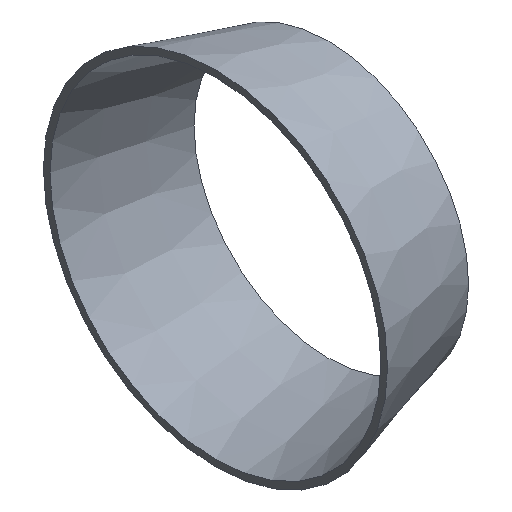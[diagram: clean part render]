
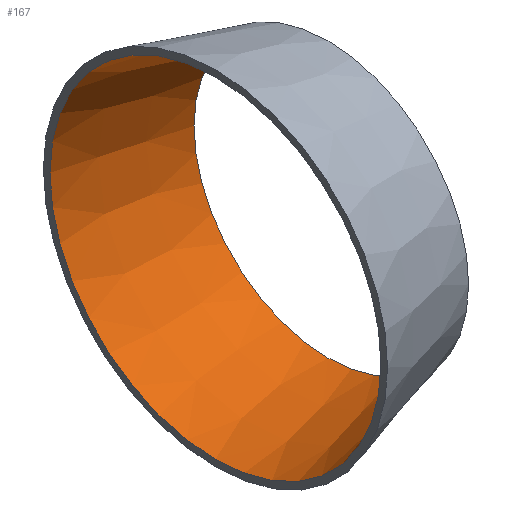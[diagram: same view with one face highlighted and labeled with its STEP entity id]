
A CAD part, isometric view. The second image highlights one B-rep face of the part: STEP entity #167.
In plain terms, the highlighted conical face has half-angle 15.611 degrees and reference radius 50 mm.
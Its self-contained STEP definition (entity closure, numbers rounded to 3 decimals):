
#43 = PLANE('',#44);
#44 = AXIS2_PLACEMENT_3D('',#45,#46,#47);
#45 = CARTESIAN_POINT('',(0.,0.,0.));
#46 = DIRECTION('',(1.,0.,0.));
#47 = DIRECTION('',(0.,1.,0.));
#90 = PLANE('',#91);
#91 = AXIS2_PLACEMENT_3D('',#92,#93,#94);
#92 = CARTESIAN_POINT('',(34.,0.,0.));
#93 = DIRECTION('',(1.,0.,0.));
#94 = DIRECTION('',(0.,1.,0.));
#109 = EDGE_CURVE('',#110,#110,#112,.T.);
#110 = VERTEX_POINT('',#111);
#111 = CARTESIAN_POINT('',(0.,50.,0.));
#112 = SURFACE_CURVE('',#113,(#118,#125),.PCURVE_S1.);
#113 = CIRCLE('',#114,50.);
#114 = AXIS2_PLACEMENT_3D('',#115,#116,#117);
#115 = CARTESIAN_POINT('',(0.,0.,0.));
#116 = DIRECTION('',(1.,0.,0.));
#117 = DIRECTION('',(0.,1.,0.));
#118 = PCURVE('',#43,#119);
#119 = DEFINITIONAL_REPRESENTATION('',(#120),#124);
#120 = CIRCLE('',#121,50.);
#121 = AXIS2_PLACEMENT_2D('',#122,#123);
#122 = CARTESIAN_POINT('',(0.,0.));
#123 = DIRECTION('',(1.,0.));
#124 = ( GEOMETRIC_REPRESENTATION_CONTEXT(2) 
PARAMETRIC_REPRESENTATION_CONTEXT() REPRESENTATION_CONTEXT('2D SPACE',''
  ) );
#125 = PCURVE('',#126,#131);
#126 = CONICAL_SURFACE('',#127,50.,0.272);
#127 = AXIS2_PLACEMENT_3D('',#128,#129,#130);
#128 = CARTESIAN_POINT('',(0.,0.,0.));
#129 = DIRECTION('',(-1.,-0.,-0.));
#130 = DIRECTION('',(0.,1.,0.));
#131 = DEFINITIONAL_REPRESENTATION('',(#132),#136);
#132 = LINE('',#133,#134);
#133 = CARTESIAN_POINT('',(-0.,-0.));
#134 = VECTOR('',#135,1.);
#135 = DIRECTION('',(-1.,-0.));
#136 = ( GEOMETRIC_REPRESENTATION_CONTEXT(2) 
PARAMETRIC_REPRESENTATION_CONTEXT() REPRESENTATION_CONTEXT('2D SPACE',''
  ) );
#144 = EDGE_CURVE('',#145,#145,#147,.T.);
#145 = VERTEX_POINT('',#146);
#146 = CARTESIAN_POINT('',(34.,40.5,0.));
#147 = SURFACE_CURVE('',#148,(#153,#160),.PCURVE_S1.);
#148 = CIRCLE('',#149,40.5);
#149 = AXIS2_PLACEMENT_3D('',#150,#151,#152);
#150 = CARTESIAN_POINT('',(34.,0.,0.));
#151 = DIRECTION('',(1.,0.,0.));
#152 = DIRECTION('',(0.,1.,0.));
#153 = PCURVE('',#90,#154);
#154 = DEFINITIONAL_REPRESENTATION('',(#155),#159);
#155 = CIRCLE('',#156,40.5);
#156 = AXIS2_PLACEMENT_2D('',#157,#158);
#157 = CARTESIAN_POINT('',(0.,0.));
#158 = DIRECTION('',(1.,0.));
#159 = ( GEOMETRIC_REPRESENTATION_CONTEXT(2) 
PARAMETRIC_REPRESENTATION_CONTEXT() REPRESENTATION_CONTEXT('2D SPACE',''
  ) );
#160 = PCURVE('',#126,#161);
#161 = DEFINITIONAL_REPRESENTATION('',(#162),#166);
#162 = LINE('',#163,#164);
#163 = CARTESIAN_POINT('',(-0.,-34.));
#164 = VECTOR('',#165,1.);
#165 = DIRECTION('',(-1.,-0.));
#166 = ( GEOMETRIC_REPRESENTATION_CONTEXT(2) 
PARAMETRIC_REPRESENTATION_CONTEXT() REPRESENTATION_CONTEXT('2D SPACE',''
  ) );
#167 = ADVANCED_FACE('',(#168),#126,.F.);
#168 = FACE_BOUND('',#169,.F.);
#169 = EDGE_LOOP('',(#170,#188,#189,#190));
#170 = ORIENTED_EDGE('',*,*,#171,.F.);
#171 = EDGE_CURVE('',#110,#145,#172,.T.);
#172 = SEAM_CURVE('',#173,(#176,#182),.PCURVE_S1.);
#173 = B_SPLINE_CURVE_WITH_KNOTS('',1,(#174,#175),.UNSPECIFIED.,.F.,.F.,
  (2,2),(0.,1.),.PIECEWISE_BEZIER_KNOTS.);
#174 = CARTESIAN_POINT('',(0.,50.,0.));
#175 = CARTESIAN_POINT('',(34.,40.5,0.));
#176 = PCURVE('',#126,#177);
#177 = DEFINITIONAL_REPRESENTATION('',(#178),#181);
#178 = B_SPLINE_CURVE_WITH_KNOTS('',1,(#179,#180),.UNSPECIFIED.,.F.,.F.,
  (2,2),(0.,1.),.PIECEWISE_BEZIER_KNOTS.);
#179 = CARTESIAN_POINT('',(0.,0.));
#180 = CARTESIAN_POINT('',(0.,-34.));
#181 = ( GEOMETRIC_REPRESENTATION_CONTEXT(2) 
PARAMETRIC_REPRESENTATION_CONTEXT() REPRESENTATION_CONTEXT('2D SPACE',''
  ) );
#182 = PCURVE('',#126,#183);
#183 = DEFINITIONAL_REPRESENTATION('',(#184),#187);
#184 = B_SPLINE_CURVE_WITH_KNOTS('',1,(#185,#186),.UNSPECIFIED.,.F.,.F.,
  (2,2),(0.,1.),.PIECEWISE_BEZIER_KNOTS.);
#185 = CARTESIAN_POINT('',(-6.283,0.));
#186 = CARTESIAN_POINT('',(-6.283,-34.));
#187 = ( GEOMETRIC_REPRESENTATION_CONTEXT(2) 
PARAMETRIC_REPRESENTATION_CONTEXT() REPRESENTATION_CONTEXT('2D SPACE',''
  ) );
#188 = ORIENTED_EDGE('',*,*,#109,.T.);
#189 = ORIENTED_EDGE('',*,*,#171,.T.);
#190 = ORIENTED_EDGE('',*,*,#144,.F.);
